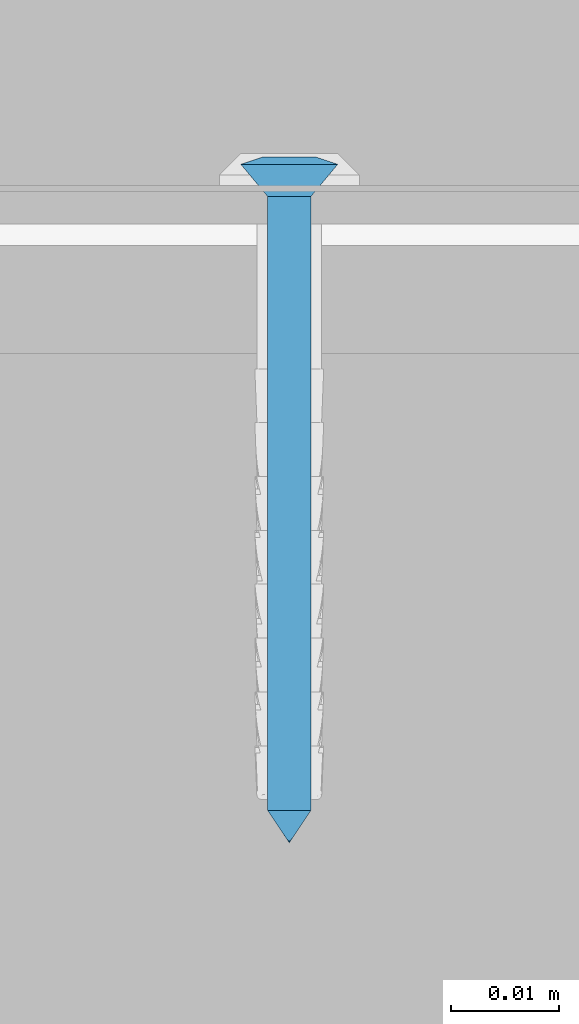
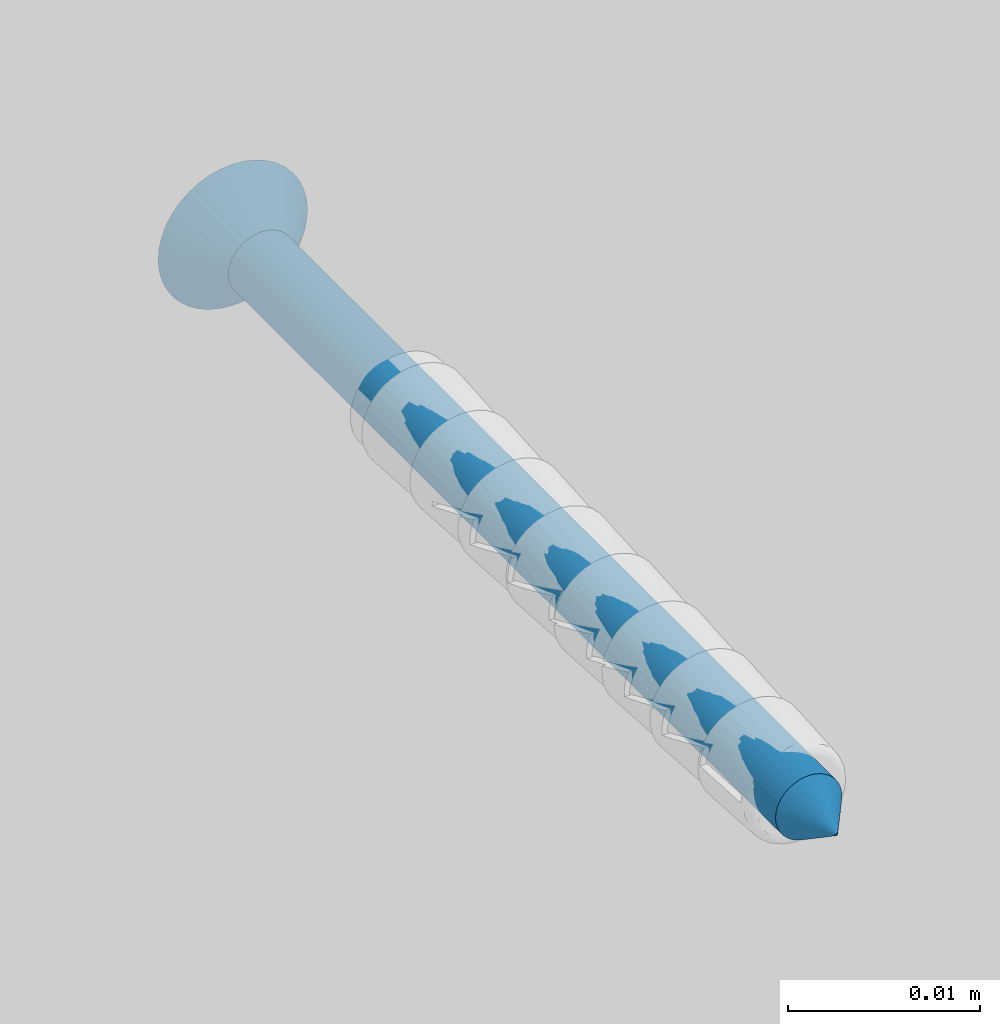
# One storey, part 34 of 92: 1 wall.
"""IFC2X3 building model written with IfcOpenShell, lengths in millimetres."""

from ifc_helpers import new_model, si_unit, frame, origin_with_axes, place, context, subcontext, project, spatial, faceted_brep, material, type_object, element, save


model = new_model("IFC2X3")

# Units and contexts
model_context = context("Model", 3, world=origin_with_axes())
body_context = subcontext(model_context, "Body", "Model", "MODEL_VIEW")
ifc_project = project(units=[si_unit("LENGTHUNIT", "METRE", prefix="MILLI"), si_unit("AREAUNIT", "SQUARE_METRE"), si_unit("VOLUMEUNIT", "CUBIC_METRE")], contexts=[model_context])

# Site, building, storey
site_placement = place(None, origin_with_axes())
site = spatial("IfcSite", under=ifc_project, at=site_placement, Name="Default Site", CompositionType="ELEMENT")
building_placement = place(site_placement, origin_with_axes())
building = spatial("IfcBuilding", under=site, at=building_placement, Name="Default Building", CompositionType="ELEMENT")
storey_placement = place(building_placement, origin_with_axes())
storey = spatial("IfcBuildingStorey", under=building, at=storey_placement, Name="Default Building Storey", CompositionType="ELEMENT", Elevation=0.0)

# Wall
ifc_material = material(Name="Default")
wall_type = type_object("IfcWallType", Name="Kołek rozporowy min. fi 6", PredefinedType="NOTDEFINED")
wall_placement = place(storey_placement, frame((3527.8498144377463, 118.01549176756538, 2096.231090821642), z_axis=(-1.89380159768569e-13, 1.0, 3.3306690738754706e-16), x_axis=(1.9030997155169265e-13, -3.3306690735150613e-16, 1.0)))
element("IfcWall", 1, at=wall_placement, inside=storey, type_object=wall_type, material=ifc_material, Name="Kołek rozporowy min. fi 6", context=body_context, shape_type="Brep", body=[
    faceted_brep([(-1438.2587671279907, -3452.579259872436, -0.46425670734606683), (-1435.7895851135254, -3452.970266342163, -3.464256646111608), (-1435.8141422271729, -3453.2833099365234, -3.464256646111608), (-1438.3141994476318, -3453.2833099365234, -0.46425670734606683), (-1438.093900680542, -3451.892614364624, -0.46425670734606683), (-1435.7162714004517, -3452.6650905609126, -3.464256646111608), (-1437.8236532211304, -3451.240301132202, -0.46425670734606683), (-1435.5961084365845, -3452.3751735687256, -3.464256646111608), (-1437.4547004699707, -3450.6382942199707, -0.46425670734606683), (-1435.4321956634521, -3452.107667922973, -3.464256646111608), (-1436.9961023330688, -3450.101137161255, -0.46425670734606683), (-1435.22834777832, -3451.8690109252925, -3.464256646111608), (-1436.4591836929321, -3449.642658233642, -0.46425670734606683), (-1434.9896907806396, -3451.665163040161, -3.464256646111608), (-1435.8570575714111, -3449.2735862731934, -0.46425670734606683), (-1434.7221851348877, -3451.501131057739, -3.464256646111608), (-1435.2047443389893, -3449.0034580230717, -0.46425670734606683), (-1434.4321489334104, -3451.381206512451, -3.464256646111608), (-1434.5180988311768, -3448.838710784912, -0.46425670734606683), (-1434.1269731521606, -3451.307773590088, -3.464256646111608), (-1433.8141679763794, -3448.7831592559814, -0.46425670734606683), (-1433.8141679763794, -3451.28321647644, -3.464256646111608), (-1433.110237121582, -3448.838710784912, -0.46425670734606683), (-1433.5012435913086, -3451.307773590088, -3.464256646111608), (-1432.4235916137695, -3449.0034580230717, -0.46425670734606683), (-1433.1960678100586, -3451.381206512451, -3.464256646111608), (-1431.771159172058, -3449.2735862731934, -0.46425670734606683), (-1432.9061508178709, -3451.501131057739, -3.464256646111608), (-1431.1691522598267, -3449.642658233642, -0.46425670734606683), (-1432.6385259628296, -3451.665163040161, -3.464256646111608), (-1430.6321144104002, -3450.101137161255, -0.46425670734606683), (-1432.3999881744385, -3451.8690109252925, -3.464256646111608), (-1430.1735162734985, -3450.6382942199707, -0.46425670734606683), (-1432.1961402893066, -3452.107667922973, -3.464256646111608), (-1429.8045635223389, -3451.240301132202, -0.46425670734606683), (-1432.0321083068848, -3452.3751735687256, -3.464256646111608), (-1429.5344352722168, -3451.892614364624, -0.46425670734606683), (-1431.9120645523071, -3452.6650905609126, -3.464256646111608), (-1431.814193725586, -3453.2833099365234, -3.464256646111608), (-1429.314136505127, -3453.2833099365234, -0.46425670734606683), (-1429.369568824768, -3453.9871215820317, -0.46425670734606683), (-1431.8387508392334, -3453.5961151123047, -3.464256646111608), (-1431.8387508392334, -3452.970266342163, -3.464256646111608), (-1429.369568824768, -3452.579259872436, -0.46425670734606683), (-1429.5344352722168, -3454.6737670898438, -0.46425670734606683), (-1431.9120645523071, -3453.9012908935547, -3.464256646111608), (-1429.8045635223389, -3455.3260803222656, -0.46425670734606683), (-1432.0321083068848, -3454.191207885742, -3.464256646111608), (-1430.1735162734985, -3455.9283256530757, -0.46425670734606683), (-1432.1961402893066, -3454.458713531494, -3.464256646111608), (-1430.6321144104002, -3456.465244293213, -0.46425670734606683), (-1432.3999881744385, -3454.6973705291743, -3.464256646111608), (-1431.1691522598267, -3456.923723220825, -0.46425670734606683), (-1432.6385259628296, -3454.9012184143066, -3.464256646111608), (-1431.771159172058, -3457.2927951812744, -0.46425670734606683), (-1432.9061508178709, -3455.065250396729, -3.464256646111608), (-1432.4235916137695, -3457.562923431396, -0.46425670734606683), (-1433.1960678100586, -3455.1854133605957, -3.464256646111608), (-1433.110237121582, -3457.7279090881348, -0.46425670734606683), (-1433.5012435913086, -3455.25860786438, -3.464256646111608), (-1433.8141679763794, -3457.7832221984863, -0.46425670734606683), (-1433.8141679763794, -3455.283164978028, -3.464256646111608), (-1434.1269731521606, -3455.25860786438, -3.464256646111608), (-1434.3430995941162, -3457.7519893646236, -0.46425670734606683), (-1434.4321489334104, -3455.1854133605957, -3.464256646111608), (-1434.8646402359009, -3457.6590061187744, -0.46425670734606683), (-1435.3716373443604, -3457.504987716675, -0.46425670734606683), (-1434.7221851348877, -3455.065250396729, -3.464256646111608), (-1435.8570575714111, -3457.2927951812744, -0.46425670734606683), (-1436.3142251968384, -3457.024812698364, -0.46425670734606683), (-1435.22834777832, -3454.6973705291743, -3.464256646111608), (-1434.9896907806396, -3454.9012184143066, -3.464256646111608), (-1436.7367029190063, -3456.705093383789, -0.46425670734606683), (-1437.118649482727, -3456.337928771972, -0.46425670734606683), (-1435.4321956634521, -3454.458713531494, -3.464256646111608), (-1437.4547004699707, -3455.9283256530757, -0.46425670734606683), (-1437.8236532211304, -3455.3260803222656, -0.46425670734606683), (-1435.5961084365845, -3454.191207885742, -3.464256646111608), (-1438.093900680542, -3454.6737670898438, -0.46425670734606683), (-1435.7162714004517, -3453.9012908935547, -3.464256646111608), (-1438.2587671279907, -3453.9871215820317, -0.46425670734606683), (-1435.7895851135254, -3453.5961151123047, -3.464256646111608), (-1433.8141679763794, -3455.7831287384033, 0.20073754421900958), (-1434.2052936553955, -3455.752372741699, 0.20073754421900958), (-1434.5866441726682, -3455.6608200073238, 0.20073754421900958), (-1434.9491596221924, -3455.510854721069, 0.20073754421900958), (-1435.2836608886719, -3455.305814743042, 0.20073754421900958), (-1435.581922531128, -3455.0509452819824, 0.20073754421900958), (-1435.836672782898, -3454.7526836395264, 0.20073754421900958), (-1436.0417127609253, -3454.418182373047, 0.20073754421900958), (-1436.1917972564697, -3454.0557861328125, 0.20073754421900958), (-1436.2833499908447, -3453.6743164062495, 0.20073754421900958), (-1436.3141059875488, -3453.2833099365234, 0.20073754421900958), (-1436.2833499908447, -3452.8920650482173, 0.20073754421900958), (-1436.1917972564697, -3452.5105953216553, 0.20073754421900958), (-1436.0417127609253, -3452.148199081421, 0.20073754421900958), (-1435.836672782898, -3451.8136978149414, 0.20073754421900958), (-1435.581922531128, -3451.5154361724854, 0.20073754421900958), (-1435.2836608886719, -3451.260566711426, 0.20073754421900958), (-1434.9491596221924, -3451.0557651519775, 0.20073754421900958), (-1434.5866441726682, -3450.905561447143, 0.20073754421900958), (-1433.8141679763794, -3450.7832527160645, 0.20073754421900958), (-1433.4230422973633, -3450.8140087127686, 0.20073754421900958), (-1434.2052936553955, -3450.8140087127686, 0.20073754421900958), (-1433.0415725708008, -3450.905561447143, 0.20073754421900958), (-1432.6791763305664, -3451.0557651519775, 0.20073754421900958), (-1432.344675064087, -3451.260566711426, 0.20073754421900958), (-1432.0464134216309, -3451.5154361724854, 0.20073754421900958), (-1431.7916631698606, -3451.8136978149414, 0.20073754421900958), (-1431.5866231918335, -3452.148199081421, 0.20073754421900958), (-1431.436538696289, -3452.5105953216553, 0.20073754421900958), (-1431.344985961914, -3452.8920650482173, 0.20073754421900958), (-1431.3141107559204, -3453.2833099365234, 0.20073754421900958), (-1431.344985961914, -3453.6743164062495, 0.20073754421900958), (-1431.436538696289, -3454.0557861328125, 0.20073754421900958), (-1431.5866231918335, -3454.418182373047, 0.20073754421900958), (-1431.7916631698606, -3454.7526836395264, 0.20073754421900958), (-1432.0464134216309, -3455.0509452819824, 0.20073754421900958), (-1432.344675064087, -3455.305814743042, 0.20073754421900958), (-1432.6791763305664, -3455.510854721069, 0.20073754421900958), (-1433.0415725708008, -3455.6608200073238, 0.20073754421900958), (-1433.4230422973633, -3455.752372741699, 0.20073754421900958), (-1435.8141422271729, -3453.2833099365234, -60.464255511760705), (-1435.7895851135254, -3452.970266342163, -60.464255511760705), (-1433.8141679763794, -3453.2833099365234, -63.46425414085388), (-1435.7162714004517, -3452.6650905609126, -60.464255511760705), (-1435.5961084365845, -3452.3751735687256, -60.464255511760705), (-1435.4321956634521, -3452.107667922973, -60.464255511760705), (-1435.22834777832, -3451.8690109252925, -60.464255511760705), (-1434.9896907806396, -3451.665163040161, -60.464255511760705), (-1434.7221851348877, -3451.501131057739, -60.464255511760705), (-1434.4321489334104, -3451.381206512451, -60.464255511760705), (-1434.1269731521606, -3451.307773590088, -60.464255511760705), (-1433.8141679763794, -3451.28321647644, -60.464255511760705), (-1433.5012435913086, -3451.307773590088, -60.464255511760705), (-1433.1960678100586, -3451.381206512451, -60.464255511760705), (-1432.9061508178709, -3451.501131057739, -60.464255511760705), (-1432.6385259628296, -3451.665163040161, -60.464255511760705), (-1432.3999881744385, -3451.8690109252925, -60.464255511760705), (-1432.1961402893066, -3452.107667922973, -60.464255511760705), (-1432.0321083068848, -3452.3751735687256, -60.464255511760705), (-1431.9120645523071, -3452.6650905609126, -60.464255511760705), (-1431.8387508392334, -3452.970266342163, -60.464255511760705), (-1431.814193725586, -3453.2833099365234, -60.464255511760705), (-1431.8387508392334, -3453.5961151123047, -60.464255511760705), (-1431.9120645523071, -3453.9012908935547, -60.464255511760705), (-1432.0321083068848, -3454.191207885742, -60.464255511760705), (-1432.1961402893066, -3454.458713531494, -60.464255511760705), (-1432.3999881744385, -3454.6973705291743, -60.464255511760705), (-1432.6385259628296, -3454.9012184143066, -60.464255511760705), (-1432.9061508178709, -3455.065250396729, -60.464255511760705), (-1433.1960678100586, -3455.1854133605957, -60.464255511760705), (-1433.5012435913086, -3455.25860786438, -60.464255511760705), (-1433.8141679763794, -3455.283164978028, -60.464255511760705), (-1434.1269731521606, -3455.25860786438, -60.464255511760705), (-1434.4321489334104, -3455.1854133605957, -60.464255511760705), (-1434.7221851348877, -3455.065250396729, -60.464255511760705), (-1434.9896907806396, -3454.9012184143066, -60.464255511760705), (-1435.22834777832, -3454.6973705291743, -60.464255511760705), (-1435.4321956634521, -3454.458713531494, -60.464255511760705), (-1435.5961084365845, -3454.191207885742, -60.464255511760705), (-1435.7162714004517, -3453.9012908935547, -60.464255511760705), (-1435.7895851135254, -3453.5961151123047, -60.464255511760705), (-1436.1917972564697, -3454.0557861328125, 0.049999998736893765), (-1436.0417127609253, -3454.418182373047, 0.049999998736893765), (-1435.836672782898, -3454.7526836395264, 0.049999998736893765), (-1435.581922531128, -3455.0509452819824, 0.049999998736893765), (-1435.2836608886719, -3455.305814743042, 0.049999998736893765), (-1434.9491596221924, -3455.510854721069, 0.049999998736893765), (-1434.5866441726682, -3455.6608200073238, 0.049999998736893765), (-1434.2052936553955, -3455.752372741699, 0.049999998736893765), (-1433.8141679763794, -3455.7831287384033, 0.049999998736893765), (-1433.4230422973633, -3455.752372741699, 0.049999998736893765), (-1433.0415725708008, -3455.6608200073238, 0.049999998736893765), (-1432.6791763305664, -3455.510854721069, 0.049999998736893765), (-1432.344675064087, -3455.305814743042, 0.049999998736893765), (-1432.0464134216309, -3455.0509452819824, 0.049999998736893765), (-1431.7916631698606, -3454.7526836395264, 0.049999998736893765), (-1431.5866231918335, -3454.418182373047, 0.049999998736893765), (-1431.436538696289, -3454.0557861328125, 0.049999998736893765), (-1431.344985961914, -3453.6743164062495, 0.049999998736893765), (-1431.3141107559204, -3453.2833099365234, 0.049999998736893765), (-1431.344985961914, -3452.8920650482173, 0.049999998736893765), (-1431.436538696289, -3452.5105953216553, 0.049999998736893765), (-1431.5866231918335, -3452.148199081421, 0.049999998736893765), (-1431.7916631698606, -3451.8136978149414, 0.049999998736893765), (-1432.0464134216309, -3451.5154361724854, 0.049999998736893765), (-1432.344675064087, -3451.260566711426, 0.049999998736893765), (-1432.6791763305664, -3451.0557651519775, 0.049999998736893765), (-1433.0415725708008, -3450.905561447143, 0.049999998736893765), (-1433.4230422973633, -3450.8140087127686, 0.049999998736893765), (-1433.8141679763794, -3450.7832527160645, 0.049999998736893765), (-1434.2052936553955, -3450.8140087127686, 0.049999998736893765), (-1434.5866441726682, -3450.905561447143, 0.049999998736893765), (-1434.9491596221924, -3451.0557651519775, 0.049999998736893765), (-1435.2836608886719, -3451.260566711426, 0.049999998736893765), (-1435.581922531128, -3451.5154361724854, 0.049999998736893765), (-1435.836672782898, -3451.8136978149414, 0.049999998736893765), (-1436.0417127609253, -3452.148199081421, 0.049999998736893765), (-1436.1917972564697, -3452.5105953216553, 0.049999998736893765), (-1436.2833499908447, -3452.8920650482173, 0.049999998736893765), (-1436.3141059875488, -3453.2833099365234, 0.049999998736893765), (-1436.2833499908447, -3453.6743164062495, 0.049999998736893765), (-1434.3141317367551, -3453.7832736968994, 0.049999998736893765), (-1435.8141422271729, -3453.7832736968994, 0.049999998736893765), (-1435.8141422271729, -3452.7831077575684, 0.049999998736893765), (-1434.3141317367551, -3452.7831077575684, 0.049999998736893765), (-1434.3141317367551, -3451.28321647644, 0.049999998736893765), (-1433.3142042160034, -3451.28321647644, 0.049999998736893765), (-1433.3142042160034, -3452.7831077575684, 0.049999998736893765), (-1431.814193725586, -3452.7831077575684, 0.049999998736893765), (-1431.814193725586, -3453.7832736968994, 0.049999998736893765), (-1433.3142042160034, -3453.7832736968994, 0.049999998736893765), (-1433.3142042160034, -3455.283164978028, 0.049999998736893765), (-1434.3141317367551, -3455.283164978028, 0.049999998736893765), (-1435.8141422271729, -3452.7831077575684, -1.799262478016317), (-1435.8141422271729, -3453.7832736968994, -1.799262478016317), (-1434.3141317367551, -3453.7832736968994, -1.799262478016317), (-1434.3141317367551, -3455.283164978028, -1.799262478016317), (-1433.3142042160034, -3455.283164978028, -1.799262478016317), (-1433.3142042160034, -3453.7832736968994, -1.799262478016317), (-1431.814193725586, -3453.7832736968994, -1.799262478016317), (-1431.814193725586, -3452.7831077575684, -1.799262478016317), (-1433.3142042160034, -3452.7831077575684, -1.799262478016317), (-1433.3142042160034, -3451.28321647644, -1.799262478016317), (-1434.3141317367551, -3451.28321647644, -1.799262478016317), (-1434.3141317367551, -3452.7831077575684, -1.799262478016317)], [[[0, 1, 2, 3]], [[1, 0, 4, 5]], [[5, 4, 6, 7]], [[8, 9, 7, 6]], [[9, 8, 10, 11]], [[12, 13, 11, 10]], [[13, 12, 14, 15]], [[15, 14, 16, 17]], [[18, 19, 17, 16]], [[19, 18, 20, 21]], [[22, 23, 21, 20]], [[23, 22, 24, 25]], [[25, 24, 26, 27]], [[28, 29, 27, 26]], [[29, 28, 30, 31]], [[32, 33, 31, 30]], [[33, 32, 34, 35]], [[35, 34, 36, 37]], [[38, 39, 40, 41]], [[42, 43, 39, 38]], [[43, 42, 37, 36]], [[41, 40, 44, 45]], [[45, 44, 46, 47]], [[48, 49, 47, 46]], [[49, 48, 50, 51]], [[52, 53, 51, 50]], [[53, 52, 54, 55]], [[55, 54, 56, 57]], [[58, 59, 57, 56]], [[59, 58, 60, 61]], [[62, 60, 63]], [[62, 61, 60]], [[63, 64, 62]], [[63, 65, 64]], [[64, 65, 66]], [[66, 67, 64]], [[66, 68, 67]], [[69, 70, 71]], [[69, 72, 70]], [[71, 68, 69]], [[71, 67, 68]], [[72, 73, 70]], [[74, 73, 75]], [[74, 70, 73]], [[74, 75, 76, 77]], [[77, 76, 78, 79]], [[80, 81, 79, 78]], [[81, 80, 3, 2]], [[63, 82, 83]], [[63, 60, 82]], [[83, 65, 63]], [[83, 84, 65]], [[84, 68, 66]], [[84, 85, 68]], [[66, 65, 84]], [[69, 85, 86]], [[69, 68, 85]], [[87, 73, 72]], [[72, 86, 87]], [[72, 69, 86]], [[75, 87, 88]], [[75, 73, 87]], [[75, 88, 89, 76]], [[76, 89, 90, 78]], [[91, 80, 78, 90]], [[80, 91, 92, 3]], [[93, 0, 3, 92]], [[0, 93, 94, 4]], [[4, 94, 95, 6]], [[96, 8, 6, 95]], [[8, 96, 97, 10]], [[98, 12, 10, 97]], [[12, 98, 99, 14]], [[14, 99, 100, 16]], [[20, 101, 102, 22]], [[18, 103, 101, 20]], [[103, 18, 16, 100]], [[22, 102, 104, 24]], [[24, 104, 105, 26]], [[106, 28, 26, 105]], [[28, 106, 107, 30]], [[108, 32, 30, 107]], [[32, 108, 109, 34]], [[34, 109, 110, 36]], [[111, 43, 36, 110]], [[43, 111, 112, 39]], [[113, 40, 39, 112]], [[40, 113, 114, 44]], [[44, 114, 115, 46]], [[116, 48, 46, 115]], [[48, 116, 117, 50]], [[118, 52, 50, 117]], [[52, 118, 119, 54]], [[54, 119, 120, 56]], [[121, 58, 56, 120]], [[58, 121, 82, 60]], [[122, 123, 124]], [[123, 125, 124]], [[125, 126, 124]], [[124, 126, 127]], [[127, 128, 124]], [[124, 128, 129]], [[129, 130, 124]], [[130, 131, 124]], [[124, 131, 132]], [[132, 133, 124]], [[124, 133, 134]], [[134, 135, 124]], [[135, 136, 124]], [[124, 136, 137]], [[137, 138, 124]], [[124, 138, 139]], [[139, 140, 124]], [[140, 141, 124]], [[124, 141, 142]], [[142, 143, 124]], [[124, 143, 144]], [[144, 145, 124]], [[145, 146, 124]], [[124, 146, 147]], [[147, 148, 124]], [[124, 148, 149]], [[149, 150, 124]], [[150, 151, 124]], [[124, 151, 152]], [[152, 153, 124]], [[124, 153, 154]], [[154, 155, 124]], [[155, 156, 124]], [[124, 156, 157]], [[157, 158, 124]], [[124, 158, 159]], [[159, 160, 124]], [[160, 161, 124]], [[124, 161, 162]], [[124, 162, 122]], [[1, 123, 122, 2]], [[123, 1, 5, 125]], [[125, 5, 7, 126]], [[9, 127, 126, 7]], [[127, 9, 11, 128]], [[13, 129, 128, 11]], [[129, 13, 15, 130]], [[130, 15, 17, 131]], [[19, 132, 131, 17]], [[132, 19, 21, 133]], [[23, 134, 133, 21]], [[134, 23, 25, 135]], [[135, 25, 27, 136]], [[29, 137, 136, 27]], [[137, 29, 31, 138]], [[33, 139, 138, 31]], [[139, 33, 35, 140]], [[140, 35, 37, 141]], [[143, 38, 41, 144]], [[142, 42, 38, 143]], [[42, 142, 141, 37]], [[144, 41, 45, 145]], [[145, 45, 47, 146]], [[49, 147, 146, 47]], [[147, 49, 51, 148]], [[53, 149, 148, 51]], [[149, 53, 55, 150]], [[150, 55, 57, 151]], [[59, 152, 151, 57]], [[152, 59, 61, 153]], [[62, 154, 153, 61]], [[154, 62, 64, 155]], [[155, 64, 67, 156]], [[71, 157, 156, 67]], [[157, 71, 70, 158]], [[74, 159, 158, 70]], [[159, 74, 77, 160]], [[160, 77, 79, 161]], [[81, 162, 161, 79]], [[162, 81, 2, 122]], [[163, 164, 165, 166, 167, 168, 169, 170, 171, 172, 173, 174, 175, 176, 177, 178, 179, 180, 181, 182, 183, 184, 185, 186, 187, 188, 189, 190, 191, 192, 193, 194, 195, 196, 197, 198, 199, 200, 201, 202], [203, 204, 205, 206, 207, 208, 209, 210, 211, 212, 213, 214]], [[113, 112, 181, 180]], [[180, 179, 114, 113]], [[179, 178, 115, 114]], [[116, 115, 178, 177]], [[177, 176, 117, 116]], [[118, 117, 176, 175]], [[175, 174, 119, 118]], [[174, 173, 120, 119]], [[121, 120, 173, 172]], [[172, 171, 82, 121]], [[83, 82, 171, 170]], [[170, 169, 84, 83]], [[169, 168, 85, 84]], [[86, 85, 168, 167]], [[167, 166, 87, 86]], [[88, 87, 166, 165]], [[165, 164, 89, 88]], [[164, 163, 90, 89]], [[201, 200, 93, 92]], [[202, 201, 92, 91]], [[91, 90, 163, 202]], [[200, 199, 94, 93]], [[199, 198, 95, 94]], [[96, 95, 198, 197]], [[197, 196, 97, 96]], [[98, 97, 196, 195]], [[195, 194, 99, 98]], [[194, 193, 100, 99]], [[103, 100, 193, 192]], [[192, 191, 101, 103]], [[102, 101, 191, 190]], [[190, 189, 104, 102]], [[189, 188, 105, 104]], [[106, 105, 188, 187]], [[187, 186, 107, 106]], [[108, 107, 186, 185]], [[185, 184, 109, 108]], [[184, 183, 110, 109]], [[111, 110, 183, 182]], [[182, 181, 112, 111]], [[215, 216, 217, 218, 219, 220, 221, 222, 223, 224, 225, 226]], [[224, 208, 207, 225]], [[225, 207, 206, 226]], [[226, 206, 205, 215]], [[215, 205, 204, 216]], [[216, 204, 203, 217]], [[217, 203, 214, 218]], [[218, 214, 213, 219]], [[219, 213, 212, 220]], [[220, 212, 211, 221]], [[221, 211, 210, 222]], [[222, 210, 209, 223]], [[223, 209, 208, 224]]]),
])

save(model, "model.ifc")
